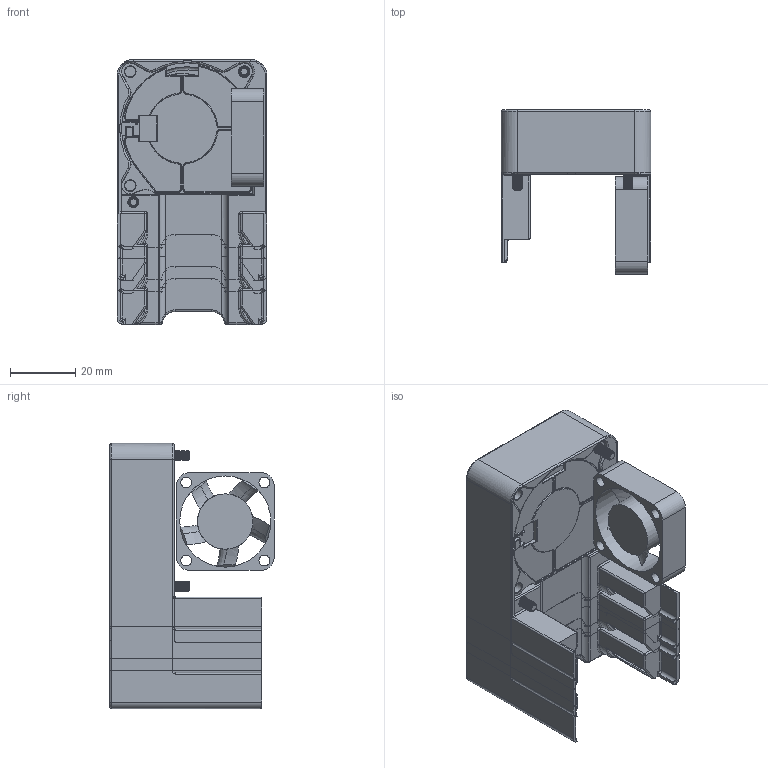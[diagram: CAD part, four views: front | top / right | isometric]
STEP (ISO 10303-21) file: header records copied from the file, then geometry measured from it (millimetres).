
FILE_DESCRIPTION(/* description */ (''),/* implementation_level */ '2;1');
FILE_NAME(/* name */ 'Daksh V2ool Fans RD v4.step',/* time_stamp */ '2024-06-21T16:24:49+07:00',/* author */ (''),/* organization */ (''),/* preprocessor_version */ 'ST-DEVELOPER v20',/* originating_system */ 'Autodesk Translation Framework v13.14.0.145',/* authorisation */ '');
FILE_SCHEMA (('AUTOMOTIVE_DESIGN { 1 0 10303 214 3 1 1 }'));
Products named in the file (26): Daksh V2ool Fans RD; Goliath Fan Body; Goliath Fan Body (1); m3 x 20mm shcs (1) (4); m3 x 20mm shcs (5); V6 Volcano Fan Body; V6 Volcano Fan Body (1); m3 x 20mm shcs (1) (2); m3 x 20mm shcs (3); Phaetus Dragon UHF Fan Body; m3 x 20mm shcs (6); Phaetus Dragon UHF Fan Body (1); m3 x 20mm shcs (4) (2); Phaetus Rapido Fan Body (1); Phaetus Rapido Fan Body; m3 x 20mm shcs (4); m3 x 20mm shcs (8); 6 x 3mm magnet (2) (1); 4020 blower fan v1; 4020p1; 4020p3; 3010 Fan v1; Main Fan Body; m3 x 20mm shcs; m3 x 20mm shcs (1); Fan Body
Assembly tree (25 placements, depth 3):
  Daksh V2ool Fans RD
    Goliath Fan Body
      Goliath Fan Body (1)
      m3 x 20mm shcs (1) (4)
      m3 x 20mm shcs (5)
    V6 Volcano Fan Body
      V6 Volcano Fan Body (1)
      m3 x 20mm shcs (1) (2)
      m3 x 20mm shcs (3)
    Phaetus Dragon UHF Fan Body
      m3 x 20mm shcs (6)
      Phaetus Dragon UHF Fan Body (1)
      m3 x 20mm shcs (4) (2)
    Phaetus Rapido Fan Body (1)
      Phaetus Rapido Fan Body
      m3 x 20mm shcs (4)
      m3 x 20mm shcs (8)
    6 x 3mm magnet (2) (1)
    4020 blower fan v1
      4020p1
      4020p3
    3010 Fan v1
    Main Fan Body
      m3 x 20mm shcs
      m3 x 20mm shcs (1)
      Fan Body
Bounding box: 46 x 50.45 x 81.44 mm (x, y, z)
Volume: 134666 mm3; surface area: 111512.2 mm2
Topology: 19 solids, 19 shells, 3186 faces, 8355 edges, 5133 vertices
Faces by surface type: cylinder 1241, plane 1085, torus 390, bspline 332, cone 70, sphere 68
Full cylindrical faces by diameter (mm): 1 x2, 2 x5, 3 x190, 3.3 x7, 3.4 x10, 4.5 x3, 5.58 x10, 5.68 x10, 6 x1, 6.5 x10, 17 x1, 22.5 x1, 28 x1, 33.8 x1
Entity records: 239544 total; most frequent: CARTESIAN_POINT 162094, ORIENTED_EDGE 16596, DIRECTION 15729, EDGE_CURVE 8298, AXIS2_PLACEMENT_3D 5930, VERTEX_POINT 5133, LINE 3869, VECTOR 3869
